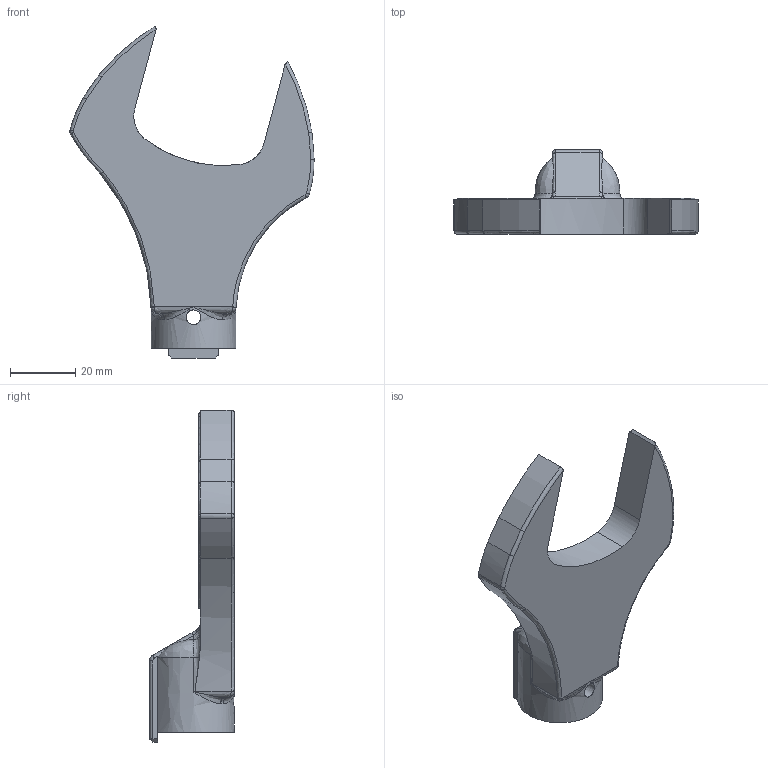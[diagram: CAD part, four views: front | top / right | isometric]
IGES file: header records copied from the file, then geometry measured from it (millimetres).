
Global section: file name: SH19DX41; native system: Autodesk Inventor 2016; preprocessor: unknown; author: Q600; date: 20151029.175313; units: millimetre
Bounding box: 74.88 x 26 x 101.81 mm (x, y, z)
Volume: 36305.2 mm3; surface area: 12341.2 mm2
Topology: 1 solids, 1 shells, 100 faces, 274 edges, 167 vertices
Faces by surface type: bspline 100
